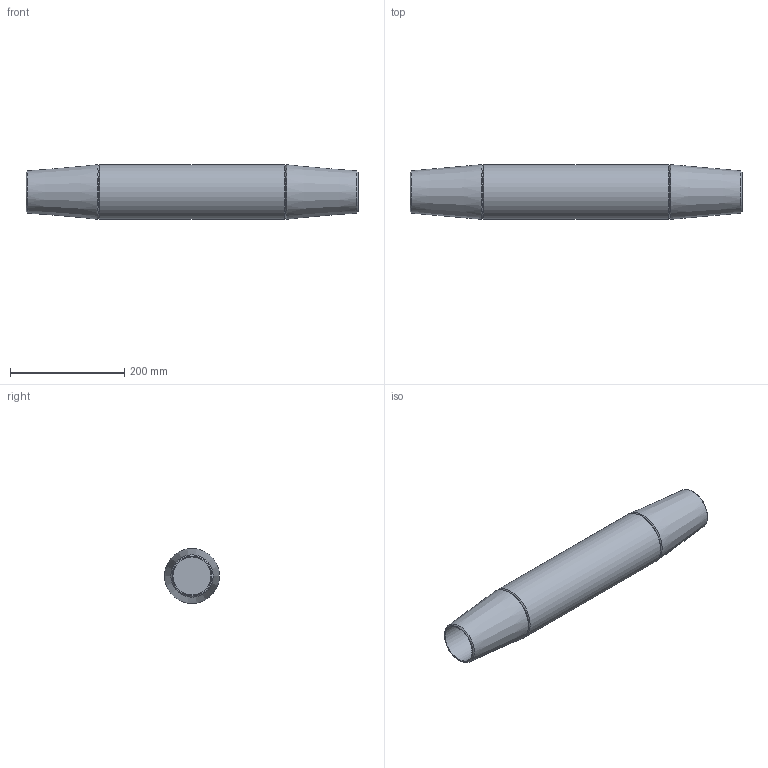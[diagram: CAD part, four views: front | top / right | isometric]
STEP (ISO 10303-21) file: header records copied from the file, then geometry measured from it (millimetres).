
FILE_DESCRIPTION(/* description */ (''),/* implementation_level */ '2;1');
FILE_NAME(/* name */ 'G:\Engineering\700 CAD\Internet-PX-1-step-igs-dxf\520-MUF-Arbeitsdateien\520-064-MUF.stp',/* time_stamp */ '2020-06-30T13:20:20+02:00',/* author */ ('schwarz'),/* organization */ (''),/* preprocessor_version */ 'ST-DEVELOPER v16.1',/* originating_system */ 'Autodesk Inventor 2016',/* authorisation */ '');
FILE_SCHEMA (('AUTOMOTIVE_DESIGN { 1 0 10303 214 3 1 1 }'));
Length unit declared in the file: centimetre
Products named in the file (1): Zusammenbau Muffe 520 064 Kunde
Bounding box: 581 x 96 x 96 mm (x, y, z)
Volume: 3149475.2 mm3; surface area: 215217.2 mm2
Topology: 1 solids, 1 shells, 15 faces, 25 edges, 14 vertices
Faces by surface type: cone 8, plane 4, cylinder 3
Full cylindrical faces by diameter (mm): 66.5 x2, 96 x1
Entity records: 347 total; most frequent: DIRECTION 60, CARTESIAN_POINT 44, AXIS2_PLACEMENT_3D 30, EDGE_LOOP 28, ORIENTED_EDGE 28, STYLED_ITEM 16, FACE_OUTER_BOUND 15, ADVANCED_FACE 15
